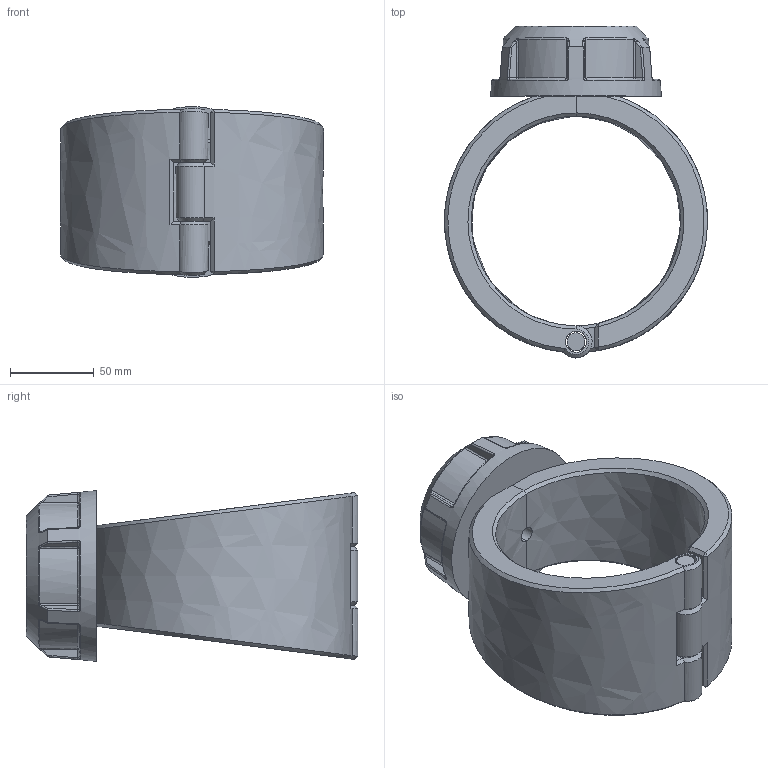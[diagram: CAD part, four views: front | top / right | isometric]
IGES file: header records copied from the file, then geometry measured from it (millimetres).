
Global section: file name: 163000125005; native system: Autodesk Inventor 2019; preprocessor: unknown; author: comp2; date: 20220203.115030; units: millimetre
Bounding box: 157 x 198 x 101.86 mm (x, y, z)
Volume: 801419.8 mm3; surface area: 122797.7 mm2
Topology: 4 solids, 4 shells, 203 faces, 486 edges, 293 vertices
Faces by surface type: bspline 203
